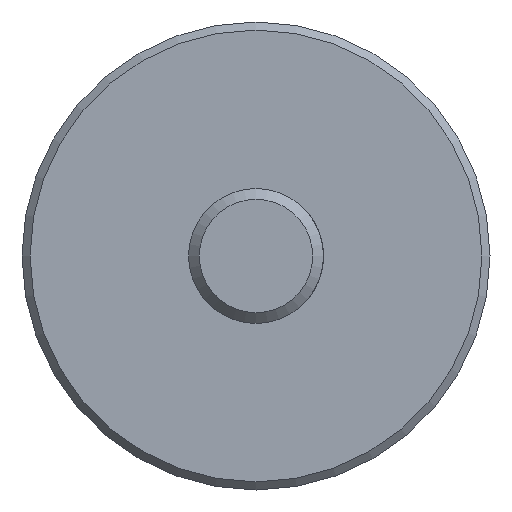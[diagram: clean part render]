
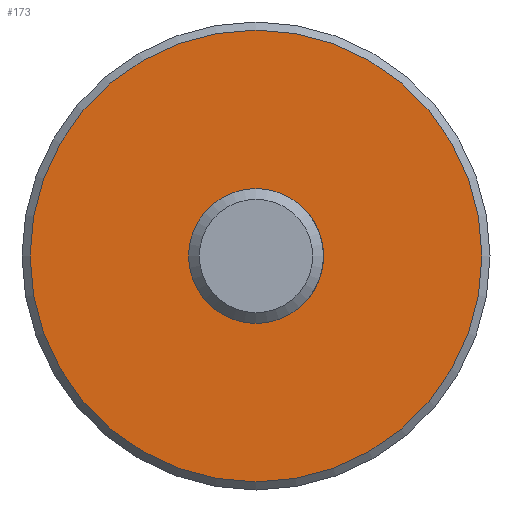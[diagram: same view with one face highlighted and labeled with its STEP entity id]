
A CAD part, front view. The second image highlights one B-rep face of the part: STEP entity #173.
In plain terms, the highlighted planar face has unit normal (0, -1, 0).
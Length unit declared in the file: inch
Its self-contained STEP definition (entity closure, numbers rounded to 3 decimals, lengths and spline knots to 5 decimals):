
#12 = CARTESIAN_POINT ( 'NONE',  ( 0., 3.28, 0. ) ) ;
#28 = DIRECTION ( 'NONE',  ( 0., 0., 1. ) ) ;
#34 = DIRECTION ( 'NONE',  ( 0., 1., 0. ) ) ;
#63 = EDGE_CURVE ( 'NONE', #307, #307, #373, .T. ) ;
#67 = DIRECTION ( 'NONE',  ( 0., 0., 1. ) ) ;
#72 = PLANE ( 'NONE',  #457 ) ;
#94 = ORIENTED_EDGE ( 'NONE', *, *, #63, .T. ) ;
#121 = CARTESIAN_POINT ( 'NONE',  ( 0., 3.28, 0. ) ) ;
#132 = DIRECTION ( 'NONE',  ( 0., 1., 0. ) ) ;
#164 = FACE_BOUND ( 'NONE', #405, .T. ) ;
#173 = ADVANCED_FACE ( 'NONE', ( #330, #164 ), #72, .F. ) ;
#231 = DIRECTION ( 'NONE',  ( 0., 0., 1. ) ) ;
#244 = CIRCLE ( 'NONE', #366, 1.255 ) ;
#307 = VERTEX_POINT ( 'NONE', #475 ) ;
#330 = FACE_OUTER_BOUND ( 'NONE', #434, .T. ) ;
#366 = AXIS2_PLACEMENT_3D ( 'NONE', #121, #132, #67 ) ;
#373 = CIRCLE ( 'NONE', #449, 0.375 ) ;
#376 = EDGE_CURVE ( 'NONE', #443, #443, #244, .T. ) ;
#398 = CARTESIAN_POINT ( 'NONE',  ( 0., 3.28, 1.255 ) ) ;
#405 = EDGE_LOOP ( 'NONE', ( #94 ) ) ;
#434 = EDGE_LOOP ( 'NONE', ( #453 ) ) ;
#443 = VERTEX_POINT ( 'NONE', #398 ) ;
#449 = AXIS2_PLACEMENT_3D ( 'NONE', #12, #483, #231 ) ;
#453 = ORIENTED_EDGE ( 'NONE', *, *, #376, .F. ) ;
#457 = AXIS2_PLACEMENT_3D ( 'NONE', #473, #34, #28 ) ;
#473 = CARTESIAN_POINT ( 'NONE',  ( 0.375, 3.28, 0. ) ) ;
#475 = CARTESIAN_POINT ( 'NONE',  ( 0., 3.28, 0.375 ) ) ;
#483 = DIRECTION ( 'NONE',  ( 0., 1., 0. ) ) ;
